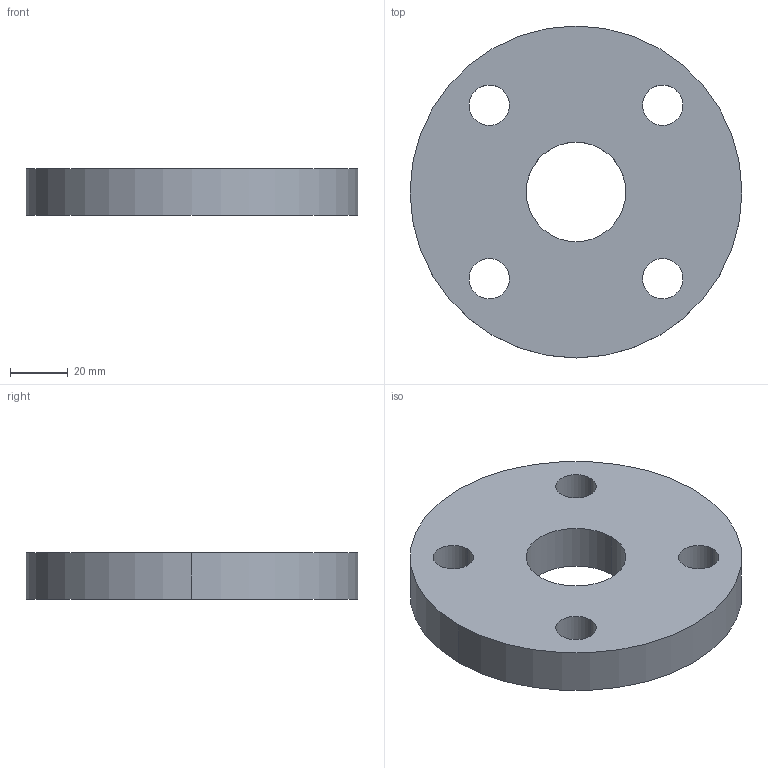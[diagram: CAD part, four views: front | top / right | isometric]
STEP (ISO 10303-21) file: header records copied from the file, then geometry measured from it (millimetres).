
FILE_DESCRIPTION (( 'STEP AP214' ), '1' );
FILE_NAME ('PN40 DN25 Type 01 - Type A Face.STEP', '2018-12-29T20:40:03', ( '' ), ( '' ), 'SwSTEP 2.0', 'SolidWorks 2019', '' );
FILE_SCHEMA (( 'AUTOMOTIVE_DESIGN' ));
Length unit declared in the file: millimetre
Products named in the file (1): PN40 DN25 Type 01 - Type A Face
Bounding box: 115 x 115 x 16 mm (x, y, z)
Volume: 141381.1 mm3; surface area: 28002.2 mm2
Topology: 1 solids, 1 shells, 14 faces, 36 edges, 24 vertices
Faces by surface type: cylinder 12, plane 2
Entity records: 498 total; most frequent: DIRECTION 90, CARTESIAN_POINT 75, ORIENTED_EDGE 72, AXIS2_PLACEMENT_3D 39, EDGE_CURVE 36, CIRCLE 24, VERTEX_POINT 24, EDGE_LOOP 24
